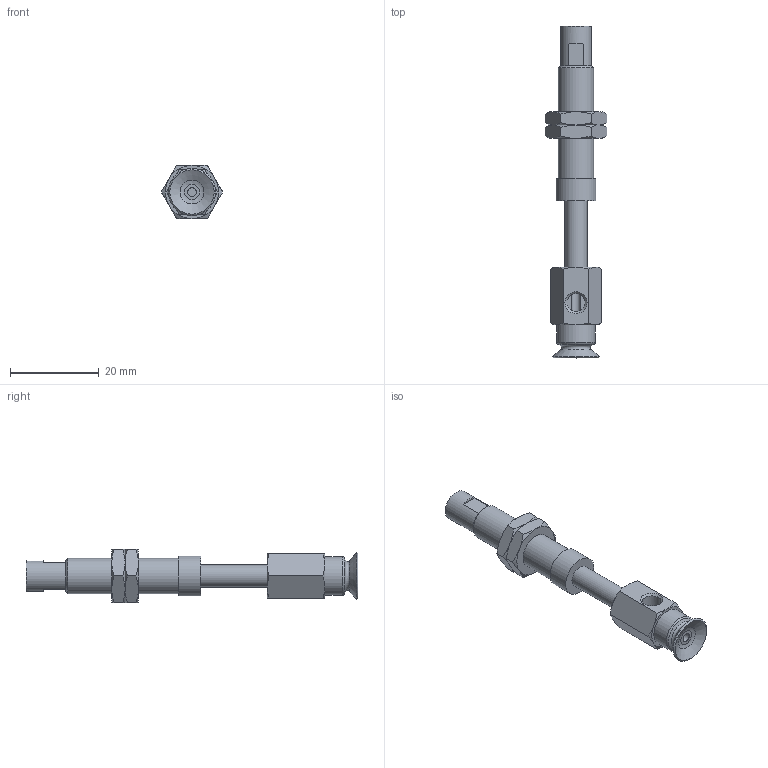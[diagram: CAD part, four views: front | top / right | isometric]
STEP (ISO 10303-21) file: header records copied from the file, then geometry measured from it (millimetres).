
FILE_DESCRIPTION(('STEP AP203'),'1');
FILE_NAME('.stp','2025-04-09T06:54:20',(' '),(' '),'Spatial InterOp 3D',' ',' ');
FILE_SCHEMA(('CONFIG_CONTROL_DESIGN'));
Length unit declared in the file: millimetre
Products named in the file (6): BNABPFYS-10A-15-※; CONNECTOR-10A-15; Nut-10A-15-s; NAPFTS-10A-15-FBODY; NAPFTS-10A-15-MBODY; BPFG-10A-※
Assembly tree (6 placements, depth 2):
  BNABPFYS-10A-15-※
    CONNECTOR-10A-15
    Nut-10A-15-s  x2
    NAPFTS-10A-15-FBODY
    NAPFTS-10A-15-MBODY
    BPFG-10A-※
Bounding box: 13.86 x 75 x 12 mm (x, y, z)
Volume: 3929.6 mm3; surface area: 4774.4 mm2
Topology: 6 solids, 6 shells, 129 faces, 270 edges, 163 vertices
Faces by surface type: plane 52, cone 51, cylinder 17, torus 8, bspline 1
Full cylindrical faces by diameter (mm): 2 x2, 4 x2, 4.134 x2, 5 x3, 6 x2, 7 x1, 7.188 x2, 8 x1, 8.7 x1, 9 x1
Entity records: 3131 total; most frequent: CARTESIAN_POINT 792, DIRECTION 430, ORIENTED_EDGE 354, AXIS2_PLACEMENT_3D 195, EDGE_CURVE 177, EDGE_LOOP 162, FACE_OUTER_BOUND 131, VERTEX_POINT 127
